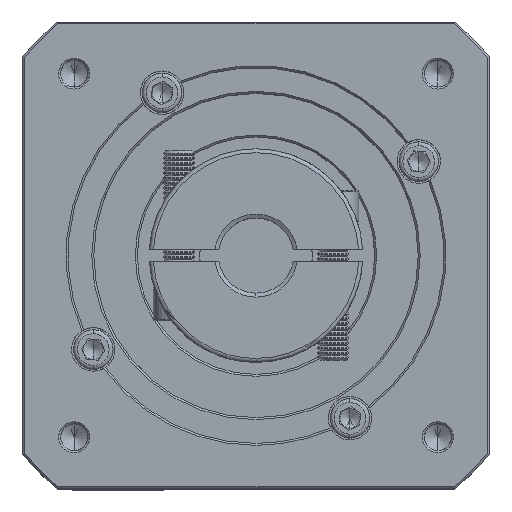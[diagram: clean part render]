
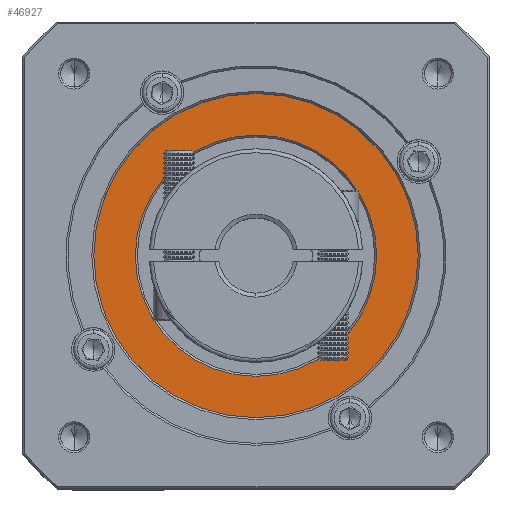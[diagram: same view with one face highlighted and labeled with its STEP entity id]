
A CAD part, top view. The second image highlights one B-rep face of the part: STEP entity #46927.
In plain terms, the highlighted planar face has unit normal (0, 0, 1).
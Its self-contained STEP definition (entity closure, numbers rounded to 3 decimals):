
#3064 = DIRECTION ( 'NONE',  ( 0., -1., 0. ) ) ;
#7059 = DIRECTION ( 'NONE',  ( -1., 0., 0. ) ) ;
#7130 = EDGE_LOOP ( 'NONE', ( #60032, #40357 ) ) ;
#9233 = FACE_BOUND ( 'NONE', #116475, .T. ) ;
#9381 = DIRECTION ( 'NONE',  ( 0., -1., 0. ) ) ;
#10045 = EDGE_CURVE ( 'NONE', #78860, #90141, #132780, .T. ) ;
#10763 = PLANE ( 'NONE',  #115275 ) ;
#18400 = VERTEX_POINT ( 'NONE', #58528 ) ;
#19717 = DIRECTION ( 'NONE',  ( 0., 0., 1. ) ) ;
#21074 = CARTESIAN_POINT ( 'NONE',  ( 54.206, 51.461, -19.981 ) ) ;
#23611 = DIRECTION ( 'NONE',  ( 0., 0., 1. ) ) ;
#29925 = ORIENTED_EDGE ( 'NONE', *, *, #10045, .T. ) ;
#33103 = CARTESIAN_POINT ( 'NONE',  ( 54.206, 92.461, -19.981 ) ) ;
#33878 = ORIENTED_EDGE ( 'NONE', *, *, #49471, .T. ) ;
#38887 = CARTESIAN_POINT ( 'NONE',  ( 54.206, 51.461, -19.981 ) ) ;
#40357 = ORIENTED_EDGE ( 'NONE', *, *, #60536, .T. ) ;
#44161 = CARTESIAN_POINT ( 'NONE',  ( 54.206, 51.461, -19.981 ) ) ;
#46927 = ADVANCED_FACE ( 'NONE', ( #105412, #9233 ), #10763, .T. ) ;
#49391 = DIRECTION ( 'NONE',  ( -1., 0., 0. ) ) ;
#49471 = EDGE_CURVE ( 'NONE', #90141, #78860, #93731, .T. ) ;
#55009 = EDGE_CURVE ( 'NONE', #18400, #90991, #65434, .T. ) ;
#58528 = CARTESIAN_POINT ( 'NONE',  ( 54.206, 10.461, -19.981 ) ) ;
#60032 = ORIENTED_EDGE ( 'NONE', *, *, #55009, .T. ) ;
#60536 = EDGE_CURVE ( 'NONE', #90991, #18400, #108463, .T. ) ;
#62340 = AXIS2_PLACEMENT_3D ( 'NONE', #38887, #19717, #9381 ) ;
#65434 = CIRCLE ( 'NONE', #128531, 41. ) ;
#68751 = DIRECTION ( 'NONE',  ( 0., 0., -1. ) ) ;
#78860 = VERTEX_POINT ( 'NONE', #82747 ) ;
#80802 = CARTESIAN_POINT ( 'NONE',  ( 54.206, 51.461, -19.981 ) ) ;
#82747 = CARTESIAN_POINT ( 'NONE',  ( 23.706, 51.461, -19.981 ) ) ;
#87639 = CARTESIAN_POINT ( 'NONE',  ( 54.206, 51.461, -19.981 ) ) ;
#90141 = VERTEX_POINT ( 'NONE', #94548 ) ;
#90991 = VERTEX_POINT ( 'NONE', #33103 ) ;
#93731 = CIRCLE ( 'NONE', #132668, 30.5 ) ;
#94548 = CARTESIAN_POINT ( 'NONE',  ( 84.706, 51.461, -19.981 ) ) ;
#105412 = FACE_OUTER_BOUND ( 'NONE', #7130, .T. ) ;
#108463 = CIRCLE ( 'NONE', #62340, 41. ) ;
#109671 = DIRECTION ( 'NONE',  ( 0., 0., -1. ) ) ;
#111808 = AXIS2_PLACEMENT_3D ( 'NONE', #80802, #68751, #49391 ) ;
#113872 = DIRECTION ( 'NONE',  ( 0., 0., 1. ) ) ;
#114744 = DIRECTION ( 'NONE',  ( 0., -1., 0. ) ) ;
#115275 = AXIS2_PLACEMENT_3D ( 'NONE', #21074, #113872, #114744 ) ;
#116475 = EDGE_LOOP ( 'NONE', ( #29925, #33878 ) ) ;
#128531 = AXIS2_PLACEMENT_3D ( 'NONE', #44161, #23611, #3064 ) ;
#132668 = AXIS2_PLACEMENT_3D ( 'NONE', #87639, #109671, #7059 ) ;
#132780 = CIRCLE ( 'NONE', #111808, 30.5 ) ;
